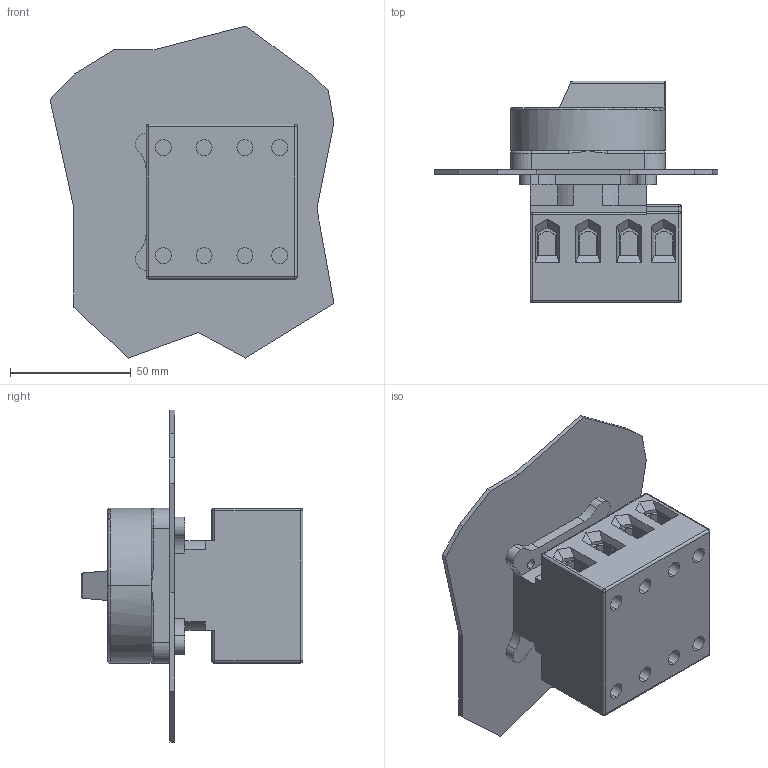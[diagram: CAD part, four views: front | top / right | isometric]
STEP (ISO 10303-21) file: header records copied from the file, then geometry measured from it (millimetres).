
FILE_DESCRIPTION (( 'STEP AP203' ), '1' );
FILE_NAME ('LTS40 EHN4 A4.STEP', '2014-02-17T08:06:43', ( 'edv' ), ( '' ), 'SwSTEP 2.0', 'SolidWorks 2014', '' );
FILE_SCHEMA (( 'CONFIG_CONTROL_DESIGN' ));
Length unit declared in the file: millimetre
Products named in the file (3): Schalterkörper LTS63_80 E A4_mit Panel 2mm; Dummie Griff SV4; LTS40 EHN4 A4
Assembly tree (2 placements, depth 2):
  LTS40 EHN4 A4
    Schalterkörper LTS63_80 E A4_mit Panel 2mm
    Dummie Griff SV4
Bounding box: 117.4 x 91.7 x 137.27 mm (x, y, z)
Volume: 263811.3 mm3; surface area: 67830.7 mm2
Topology: 2 solids, 3 shells, 345 faces, 866 edges, 532 vertices
Faces by surface type: plane 226, cylinder 91, sphere 10, bspline 10, torus 8
Entity records: 10645 total; most frequent: CARTESIAN_POINT 2197, ORIENTED_EDGE 1696, DIRECTION 1680, EDGE_CURVE 848, LINE 618, VECTOR 618, VERTEX_POINT 532, AXIS2_PLACEMENT_3D 531
